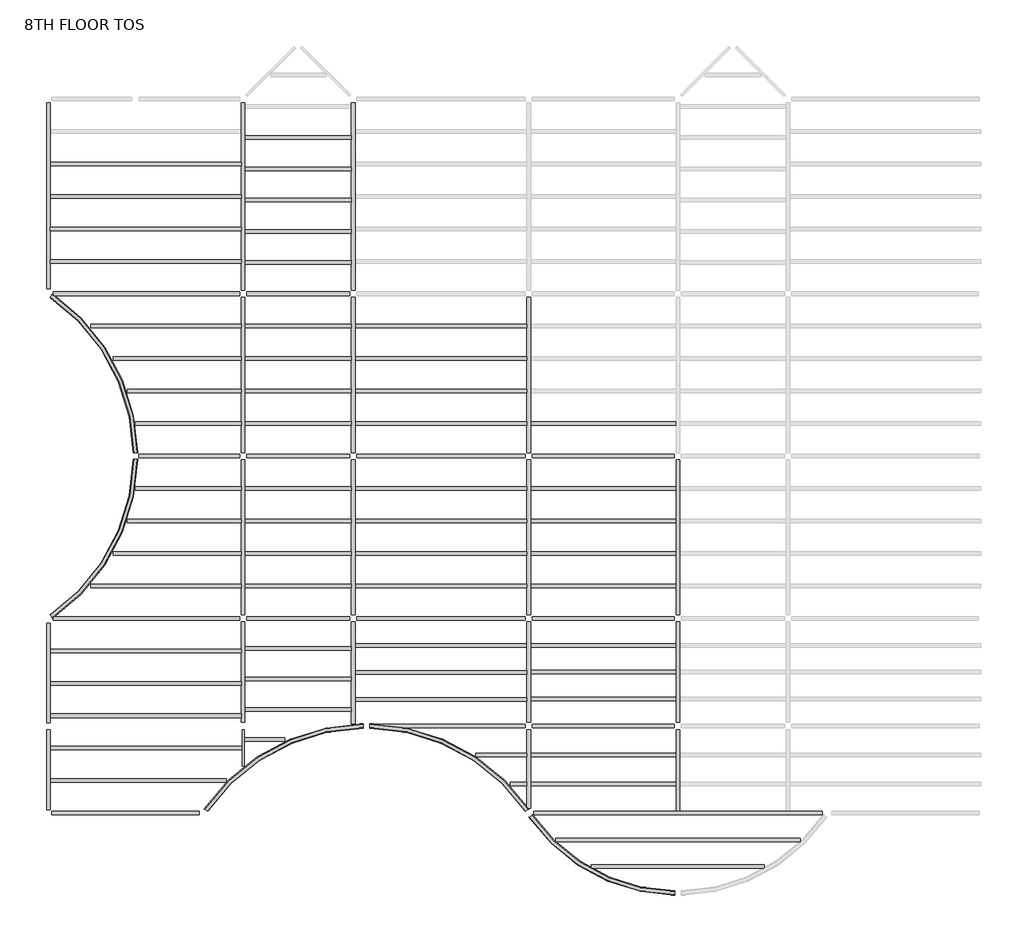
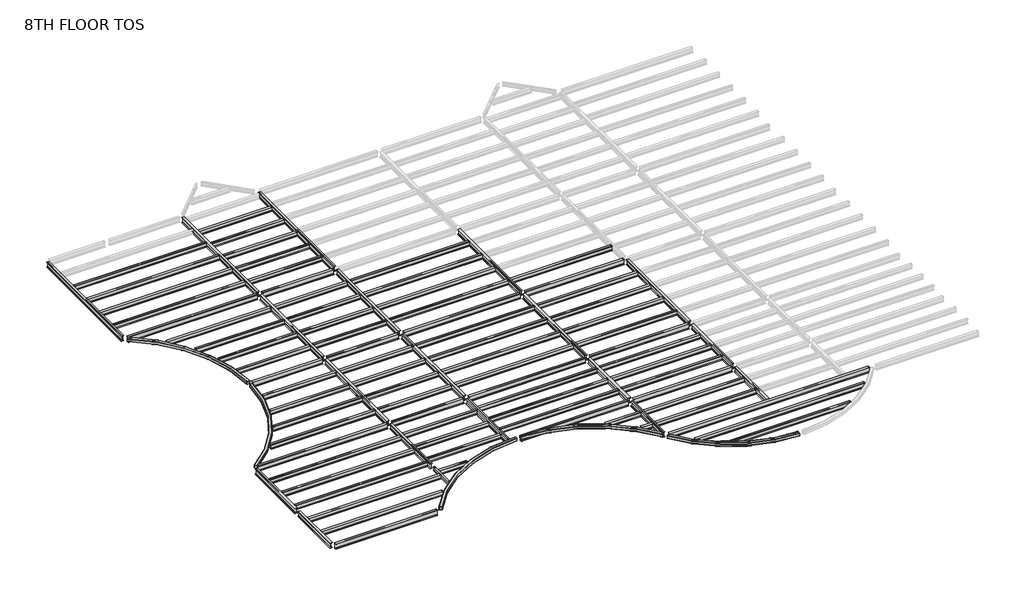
# One storey, part 1 of 2: 97 beams.
"""IFC4 building model written with IfcOpenShell, lengths in millimetres."""

from ifc_helpers import new_model, si_unit, origin, place, context, project, spatial, transform, mapped, element, save
from components import m_hss_square_hss203_2x203_2x9_5_914ff4eb, m_hss_square_hss203_2x203_2x9_5_0e3d8e6e, m_hss_square_hss203_2x203_2x9_5_16dc1c03, m_hss_square_hss203_2x203_2x9_5_18346204, m_hss_square_hss203_2x203_2x9_5_d5f1e8c4, ub_universal_beams_ub254x102x28_4e7f3726, ub_universal_beams_ub305x165x40_c4d0385b, ub_universal_beams_ub305x165x40_d3abc31d, ub_universal_beams_ub305x165x40_0c73730f, ub_universal_beams_ub305x165x40_2a963f0c, ub_universal_beams_ub305x165x40_0a5f2f96, ub_universal_beams_ub305x165x40_d1f7c369, ub_universal_beams_ub305x165x40_83d7b7d5, ub_universal_beams_ub305x165x40_729a4ea5, ub_universal_beams_ub305x165x40_71dfa851, ub_universal_beams_ub305x165x40_619b5398, ub_universal_beams_ub305x165x40_c3492db1, ub_universal_beams_ub305x165x40_8f1c350d, ub_universal_beams_ub305x165x40_3afb5f90, ub_universal_beams_ub305x165x40_767d1929, ub_universal_beams_ub305x165x40_5941ca45, ub_universal_beams_ub356x171x51_ef72dcdd, ub_universal_beams_ub356x171x51_7f80702c, ub_universal_beams_ub356x171x51_dfc36663, ub_universal_beams_ub356x171x51_405a853e, ub_universal_beams_ub356x171x51_e47b7055, ub_universal_beams_ub356x171x51_e97f8d2e, ub_universal_beams_ub356x171x51_11d6b780, ub_universal_beams_ub356x171x51_76b2d20b, ub_universal_beams_ub356x171x51_145ecd4b, ub_universal_beams_ub356x171x51_c7dff8d2, ub_universal_beams_ub356x171x51_834c6e34, ub_universal_beams_ub356x171x51_a38b99de, ub_universal_beams_ub356x171x51_d8f4cdde, ub_universal_beams_ub356x171x51_8094f821, ub_universal_beams_ub356x171x51_c03c70fb, ub_universal_beams_ub356x171x51_e661f2e4, ub_universal_beams_ub356x171x51_3ee91673, ub_universal_beams_ub356x171x51_a871b283, ub_universal_beams_ub356x171x51_741bae58

model = new_model("IFC4")

# Units and contexts
model_context = context("Model", 3, world=origin())
ifc_project = project(units=[si_unit("LENGTHUNIT", "METRE", prefix="MILLI")], contexts=[model_context])

# Site, building, storey
site = spatial("IfcSite", under=ifc_project)
building = spatial("IfcBuilding", under=site)
storey = spatial("IfcBuildingStorey", under=building, Name="8TH FLOOR TOS", Elevation=36423.6)

# Beams
placement = place(None, origin())
m_hss_square_hss203_2x203_2x9_5_shape = m_hss_square_hss203_2x203_2x9_5_914ff4eb(model_context)
element("IfcBeam", 1, ObjectType="M_HSS Square : HSS203.2X203.2X9.5", at=placement, inside=storey, context=model_context, shape_type="MappedRepresentation", body=[
    mapped(m_hss_square_hss203_2x203_2x9_5_shape, transform((22710.575, 155.575, 36322.1), x_axis=(-0.552849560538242, 0.8332810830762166, 0.0), y_axis=(-0.8332810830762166, -0.552849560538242, 0.0), z_axis=(0.0, 0.0, 1.0))),
])
m_hss_square_hss203_2x203_2x9_5_2_shape = m_hss_square_hss203_2x203_2x9_5_0e3d8e6e(model_context)
element("IfcBeam", 2, ObjectType="M_HSS Square : HSS203.2X203.2X9.5", at=placement, inside=storey, context=model_context, shape_type="MappedRepresentation", body=[
    mapped(m_hss_square_hss203_2x203_2x9_5_2_shape, transform((155.575, 9299.575, 36322.1), x_axis=(0.8332810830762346, 0.5528495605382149, 0.0), y_axis=(-0.5528495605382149, 0.8332810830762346, 0.0), z_axis=(0.0, 0.0, 1.0))),
])
m_hss_square_hss203_2x203_2x9_5_3_shape = m_hss_square_hss203_2x203_2x9_5_16dc1c03(model_context)
element("IfcBeam", 3, ObjectType="M_HSS Square : HSS203.2X203.2X9.5", at=placement, inside=storey, context=model_context, shape_type="MappedRepresentation", body=[
    mapped(m_hss_square_hss203_2x203_2x9_5_3_shape, transform((155.575, 24539.575, 36322.1), x_axis=(0.8332810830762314, -0.5528495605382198, 0.0), y_axis=(0.5528495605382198, 0.8332810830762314, 0.0), z_axis=(0.0, 0.0, 1.0))),
])
m_hss_square_hss203_2x203_2x9_5_4_shape = m_hss_square_hss203_2x203_2x9_5_18346204(model_context)
element("IfcBeam", 4, ObjectType="M_HSS Square : HSS203.2X203.2X9.5", at=placement, inside=storey, context=model_context, shape_type="MappedRepresentation", body=[
    mapped(m_hss_square_hss203_2x203_2x9_5_4_shape, transform((29734.7266693, -3601.398624, 36322.1), x_axis=(-0.9999968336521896, -0.0025164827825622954, 0.0), y_axis=(0.0025164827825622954, -0.9999968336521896, 0.0), z_axis=(0.0, 0.0, 1.0))),
])
m_hss_square_hss203_2x203_2x9_5_5_shape = m_hss_square_hss203_2x203_2x9_5_d5f1e8c4(model_context)
element("IfcBeam", 5, ObjectType="M_HSS Square : HSS203.2X203.2X9.5", at=placement, inside=storey, context=model_context, shape_type="MappedRepresentation", body=[
    mapped(m_hss_square_hss203_2x203_2x9_5_5_shape, transform((15096.4572854, 4244.5731081, 36322.1), x_axis=(-0.9999997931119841, 0.0006432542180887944, 0.0), y_axis=(-0.0006432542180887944, -0.9999997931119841, 0.0), z_axis=(0.0, 0.0, 1.0))),
])
ub_universal_beams_ub254x102x28_shape = ub_universal_beams_ub254x102x28_4e7f3726(model_context)
element("IfcBeam", 6, ObjectType="UB-Universal Beams : UB254x102x28", at=placement, inside=storey, context=model_context, shape_type="MappedRepresentation", body=[
    mapped(ub_universal_beams_ub254x102x28_shape, transform((9299.575, 3210.915913, 36293.4), x_axis=(0.0, -1.0, 0.0), y_axis=(1.0, 0.0, 0.0), z_axis=(0.0, 0.0, 1.0))),
])
ub_universal_beams_ub305x165x40_shape = ub_universal_beams_ub305x165x40_c4d0385b(model_context)
element("IfcBeam", 7, ObjectType="UB-Universal Beams : UB305x165x40", at=placement, inside=storey, context=model_context, shape_type="MappedRepresentation", body=[
    mapped(ub_universal_beams_ub305x165x40_shape, transform((4727.575, 30635.575, 36271.9), x_axis=(1.0, 0.0, 0.0), y_axis=(0.0, 1.0, 0.0), z_axis=(0.0, 0.0, 1.0))),
])
element("IfcBeam", 8, ObjectType="UB-Universal Beams : UB305x165x40", at=placement, inside=storey, context=model_context, shape_type="MappedRepresentation", body=[
    mapped(ub_universal_beams_ub305x165x40_shape, transform((4727.575, 29111.575, 36271.9), x_axis=(1.0, 0.0, 0.0), y_axis=(0.0, 1.0, 0.0), z_axis=(0.0, 0.0, 1.0))),
])
element("IfcBeam", 9, ObjectType="UB-Universal Beams : UB305x165x40", at=placement, inside=storey, context=model_context, shape_type="MappedRepresentation", body=[
    mapped(ub_universal_beams_ub305x165x40_shape, transform((4727.575, 27587.575, 36271.9), x_axis=(1.0, 0.0, 0.0), y_axis=(0.0, 1.0, 0.0), z_axis=(0.0, 0.0, 1.0))),
])
element("IfcBeam", 10, ObjectType="UB-Universal Beams : UB305x165x40", at=placement, inside=storey, context=model_context, shape_type="MappedRepresentation", body=[
    mapped(ub_universal_beams_ub305x165x40_shape, transform((4727.575, 26063.575, 36271.9), x_axis=(1.0, 0.0, 0.0), y_axis=(0.0, 1.0, 0.0), z_axis=(0.0, 0.0, 1.0))),
])
element("IfcBeam", 11, ObjectType="UB-Universal Beams : UB305x165x40", at=placement, inside=storey, context=model_context, shape_type="MappedRepresentation", body=[
    mapped(ub_universal_beams_ub305x165x40_shape, transform((4727.575, 4727.575, 36271.9), x_axis=(-1.0, 0.0, 0.0), y_axis=(0.0, -1.0, 0.0), z_axis=(0.0, 0.0, 1.0))),
])
element("IfcBeam", 12, ObjectType="UB-Universal Beams : UB305x165x40", at=placement, inside=storey, context=model_context, shape_type="MappedRepresentation", body=[
    mapped(ub_universal_beams_ub305x165x40_shape, transform((4727.575, 6251.575, 36271.9), x_axis=(-1.0, 0.0, 0.0), y_axis=(0.0, -1.0, 0.0), z_axis=(0.0, 0.0, 1.0))),
])
element("IfcBeam", 13, ObjectType="UB-Universal Beams : UB305x165x40", at=placement, inside=storey, context=model_context, shape_type="MappedRepresentation", body=[
    mapped(ub_universal_beams_ub305x165x40_shape, transform((4727.575, 7775.575, 36271.9), x_axis=(-1.0, 0.0, 0.0), y_axis=(0.0, -1.0, 0.0), z_axis=(0.0, 0.0, 1.0))),
])
ub_universal_beams_ub305x165x40_2_shape = ub_universal_beams_ub305x165x40_d3abc31d(model_context)
element("IfcBeam", 14, ObjectType="UB-Universal Beams : UB305x165x40", at=placement, inside=storey, context=model_context, shape_type="MappedRepresentation", body=[
    mapped(ub_universal_beams_ub305x165x40_2_shape, transform((11885.575, 31870.825, 36271.9), x_axis=(1.0, 0.0, 0.0), y_axis=(0.0, 1.0, 0.0), z_axis=(0.0, 0.0, 1.0))),
])
element("IfcBeam", 15, ObjectType="UB-Universal Beams : UB305x165x40", at=placement, inside=storey, context=model_context, shape_type="MappedRepresentation", body=[
    mapped(ub_universal_beams_ub305x165x40_2_shape, transform((11885.575, 30404.575, 36271.9), x_axis=(1.0, 0.0, 0.0), y_axis=(0.0, 1.0, 0.0), z_axis=(0.0, 0.0, 1.0))),
])
element("IfcBeam", 16, ObjectType="UB-Universal Beams : UB305x165x40", at=placement, inside=storey, context=model_context, shape_type="MappedRepresentation", body=[
    mapped(ub_universal_beams_ub305x165x40_2_shape, transform((11885.575, 28938.325, 36271.9), x_axis=(1.0, 0.0, 0.0), y_axis=(0.0, 1.0, 0.0), z_axis=(0.0, 0.0, 1.0))),
])
element("IfcBeam", 17, ObjectType="UB-Universal Beams : UB305x165x40", at=placement, inside=storey, context=model_context, shape_type="MappedRepresentation", body=[
    mapped(ub_universal_beams_ub305x165x40_2_shape, transform((11885.575, 27472.075, 36271.9), x_axis=(1.0, 0.0, 0.0), y_axis=(0.0, 1.0, 0.0), z_axis=(0.0, 0.0, 1.0))),
])
element("IfcBeam", 18, ObjectType="UB-Universal Beams : UB305x165x40", at=placement, inside=storey, context=model_context, shape_type="MappedRepresentation", body=[
    mapped(ub_universal_beams_ub305x165x40_2_shape, transform((11885.575, 26005.825, 36271.9), x_axis=(1.0, 0.0, 0.0), y_axis=(0.0, 1.0, 0.0), z_axis=(0.0, 0.0, 1.0))),
])
element("IfcBeam", 19, ObjectType="UB-Universal Beams : UB305x165x40", at=placement, inside=storey, context=model_context, shape_type="MappedRepresentation", body=[
    mapped(ub_universal_beams_ub305x165x40_2_shape, transform((11885.575, 23015.575, 36271.9), x_axis=(1.0, 0.0, 0.0), y_axis=(0.0, 1.0, 0.0), z_axis=(0.0, 0.0, 1.0))),
])
element("IfcBeam", 20, ObjectType="UB-Universal Beams : UB305x165x40", at=placement, inside=storey, context=model_context, shape_type="MappedRepresentation", body=[
    mapped(ub_universal_beams_ub305x165x40_2_shape, transform((11885.575, 21491.575, 36271.9), x_axis=(1.0, 0.0, 0.0), y_axis=(0.0, 1.0, 0.0), z_axis=(0.0, 0.0, 1.0))),
])
element("IfcBeam", 21, ObjectType="UB-Universal Beams : UB305x165x40", at=placement, inside=storey, context=model_context, shape_type="MappedRepresentation", body=[
    mapped(ub_universal_beams_ub305x165x40_2_shape, transform((11885.575, 19967.575, 36271.9), x_axis=(1.0, 0.0, 0.0), y_axis=(0.0, 1.0, 0.0), z_axis=(0.0, 0.0, 1.0))),
])
element("IfcBeam", 22, ObjectType="UB-Universal Beams : UB305x165x40", at=placement, inside=storey, context=model_context, shape_type="MappedRepresentation", body=[
    mapped(ub_universal_beams_ub305x165x40_2_shape, transform((11885.575, 18443.575, 36271.9), x_axis=(1.0, 0.0, 0.0), y_axis=(0.0, 1.0, 0.0), z_axis=(0.0, 0.0, 1.0))),
])
element("IfcBeam", 23, ObjectType="UB-Universal Beams : UB305x165x40", at=placement, inside=storey, context=model_context, shape_type="MappedRepresentation", body=[
    mapped(ub_universal_beams_ub305x165x40_2_shape, transform((11885.575, 15395.575, 36271.9), x_axis=(1.0, 0.0, 0.0), y_axis=(0.0, 1.0, 0.0), z_axis=(0.0, 0.0, 1.0))),
])
element("IfcBeam", 24, ObjectType="UB-Universal Beams : UB305x165x40", at=placement, inside=storey, context=model_context, shape_type="MappedRepresentation", body=[
    mapped(ub_universal_beams_ub305x165x40_2_shape, transform((11885.575, 13871.575, 36271.9), x_axis=(1.0, 0.0, 0.0), y_axis=(0.0, 1.0, 0.0), z_axis=(0.0, 0.0, 1.0))),
])
element("IfcBeam", 25, ObjectType="UB-Universal Beams : UB305x165x40", at=placement, inside=storey, context=model_context, shape_type="MappedRepresentation", body=[
    mapped(ub_universal_beams_ub305x165x40_2_shape, transform((11885.575, 12347.575, 36271.9), x_axis=(1.0, 0.0, 0.0), y_axis=(0.0, 1.0, 0.0), z_axis=(0.0, 0.0, 1.0))),
])
element("IfcBeam", 26, ObjectType="UB-Universal Beams : UB305x165x40", at=placement, inside=storey, context=model_context, shape_type="MappedRepresentation", body=[
    mapped(ub_universal_beams_ub305x165x40_2_shape, transform((11885.575, 10823.575, 36271.9), x_axis=(1.0, 0.0, 0.0), y_axis=(0.0, 1.0, 0.0), z_axis=(0.0, 0.0, 1.0))),
])
element("IfcBeam", 27, ObjectType="UB-Universal Beams : UB305x165x40", at=placement, inside=storey, context=model_context, shape_type="MappedRepresentation", body=[
    mapped(ub_universal_beams_ub305x165x40_2_shape, transform((11885.575, 5026.1840956, 36271.9), x_axis=(-1.0, 0.0, 0.0), y_axis=(0.0, -1.0, 0.0), z_axis=(0.0, 0.0, 1.0))),
])
element("IfcBeam", 28, ObjectType="UB-Universal Beams : UB305x165x40", at=placement, inside=storey, context=model_context, shape_type="MappedRepresentation", body=[
    mapped(ub_universal_beams_ub305x165x40_2_shape, transform((11885.575, 6450.6477304, 36271.9), x_axis=(-1.0, 0.0, 0.0), y_axis=(0.0, -1.0, 0.0), z_axis=(0.0, 0.0, 1.0))),
])
element("IfcBeam", 29, ObjectType="UB-Universal Beams : UB305x165x40", at=placement, inside=storey, context=model_context, shape_type="MappedRepresentation", body=[
    mapped(ub_universal_beams_ub305x165x40_2_shape, transform((11885.575, 7875.1113652, 36271.9), x_axis=(-1.0, 0.0, 0.0), y_axis=(0.0, -1.0, 0.0), z_axis=(0.0, 0.0, 1.0))),
])
ub_universal_beams_ub305x165x40_3_shape = ub_universal_beams_ub305x165x40_0c73730f(model_context)
element("IfcBeam", 30, ObjectType="UB-Universal Beams : UB305x165x40", at=placement, inside=storey, context=model_context, shape_type="MappedRepresentation", body=[
    mapped(ub_universal_beams_ub305x165x40_3_shape, transform((18591.075, 5492.5943214, 36271.9), x_axis=(-1.0, 0.0, 0.0), y_axis=(0.0, -1.0, 0.0), z_axis=(0.0, 0.0, 1.0))),
])
element("IfcBeam", 31, ObjectType="UB-Universal Beams : UB305x165x40", at=placement, inside=storey, context=model_context, shape_type="MappedRepresentation", body=[
    mapped(ub_universal_beams_ub305x165x40_3_shape, transform((18591.075, 6761.5878809, 36271.9), x_axis=(-1.0, 0.0, 0.0), y_axis=(0.0, -1.0, 0.0), z_axis=(0.0, 0.0, 1.0))),
])
element("IfcBeam", 32, ObjectType="UB-Universal Beams : UB305x165x40", at=placement, inside=storey, context=model_context, shape_type="MappedRepresentation", body=[
    mapped(ub_universal_beams_ub305x165x40_3_shape, transform((18591.075, 8030.5814405, 36271.9), x_axis=(-1.0, 0.0, 0.0), y_axis=(0.0, -1.0, 0.0), z_axis=(0.0, 0.0, 1.0))),
])
element("IfcBeam", 33, ObjectType="UB-Universal Beams : UB305x165x40", at=placement, inside=storey, context=model_context, shape_type="MappedRepresentation", body=[
    mapped(ub_universal_beams_ub305x165x40_3_shape, transform((18591.075, 15395.575, 36271.9), x_axis=(1.0, 0.0, 0.0), y_axis=(0.0, 1.0, 0.0), z_axis=(0.0, 0.0, 1.0))),
])
element("IfcBeam", 34, ObjectType="UB-Universal Beams : UB305x165x40", at=placement, inside=storey, context=model_context, shape_type="MappedRepresentation", body=[
    mapped(ub_universal_beams_ub305x165x40_3_shape, transform((18591.075, 13871.575, 36271.9), x_axis=(1.0, 0.0, 0.0), y_axis=(0.0, 1.0, 0.0), z_axis=(0.0, 0.0, 1.0))),
])
element("IfcBeam", 35, ObjectType="UB-Universal Beams : UB305x165x40", at=placement, inside=storey, context=model_context, shape_type="MappedRepresentation", body=[
    mapped(ub_universal_beams_ub305x165x40_3_shape, transform((18591.075, 12347.575, 36271.9), x_axis=(1.0, 0.0, 0.0), y_axis=(0.0, 1.0, 0.0), z_axis=(0.0, 0.0, 1.0))),
])
element("IfcBeam", 36, ObjectType="UB-Universal Beams : UB305x165x40", at=placement, inside=storey, context=model_context, shape_type="MappedRepresentation", body=[
    mapped(ub_universal_beams_ub305x165x40_3_shape, transform((18591.075, 10823.575, 36271.9), x_axis=(1.0, 0.0, 0.0), y_axis=(0.0, 1.0, 0.0), z_axis=(0.0, 0.0, 1.0))),
])
element("IfcBeam", 37, ObjectType="UB-Universal Beams : UB305x165x40", at=placement, inside=storey, context=model_context, shape_type="MappedRepresentation", body=[
    mapped(ub_universal_beams_ub305x165x40_3_shape, transform((18591.075, 23015.575, 36271.9), x_axis=(1.0, 0.0, 0.0), y_axis=(0.0, 1.0, 0.0), z_axis=(0.0, 0.0, 1.0))),
])
element("IfcBeam", 38, ObjectType="UB-Universal Beams : UB305x165x40", at=placement, inside=storey, context=model_context, shape_type="MappedRepresentation", body=[
    mapped(ub_universal_beams_ub305x165x40_3_shape, transform((18591.075, 21491.575, 36271.9), x_axis=(1.0, 0.0, 0.0), y_axis=(0.0, 1.0, 0.0), z_axis=(0.0, 0.0, 1.0))),
])
element("IfcBeam", 39, ObjectType="UB-Universal Beams : UB305x165x40", at=placement, inside=storey, context=model_context, shape_type="MappedRepresentation", body=[
    mapped(ub_universal_beams_ub305x165x40_3_shape, transform((18591.075, 19967.575, 36271.9), x_axis=(1.0, 0.0, 0.0), y_axis=(0.0, 1.0, 0.0), z_axis=(0.0, 0.0, 1.0))),
])
element("IfcBeam", 40, ObjectType="UB-Universal Beams : UB305x165x40", at=placement, inside=storey, context=model_context, shape_type="MappedRepresentation", body=[
    mapped(ub_universal_beams_ub305x165x40_3_shape, transform((18591.075, 18443.575, 36271.9), x_axis=(1.0, 0.0, 0.0), y_axis=(0.0, 1.0, 0.0), z_axis=(0.0, 0.0, 1.0))),
])
ub_universal_beams_ub305x165x40_4_shape = ub_universal_beams_ub305x165x40_2a963f0c(model_context)
element("IfcBeam", 41, ObjectType="UB-Universal Beams : UB305x165x40", at=placement, inside=storey, context=model_context, shape_type="MappedRepresentation", body=[
    mapped(ub_universal_beams_ub305x165x40_4_shape, transform((26211.075, 18443.575, 36271.9), x_axis=(1.0, 0.0, 0.0), y_axis=(0.0, 1.0, 0.0), z_axis=(0.0, 0.0, 1.0))),
])
element("IfcBeam", 42, ObjectType="UB-Universal Beams : UB305x165x40", at=placement, inside=storey, context=model_context, shape_type="MappedRepresentation", body=[
    mapped(ub_universal_beams_ub305x165x40_4_shape, transform((26211.075, 15395.575, 36271.9), x_axis=(1.0, 0.0, 0.0), y_axis=(0.0, 1.0, 0.0), z_axis=(0.0, 0.0, 1.0))),
])
element("IfcBeam", 43, ObjectType="UB-Universal Beams : UB305x165x40", at=placement, inside=storey, context=model_context, shape_type="MappedRepresentation", body=[
    mapped(ub_universal_beams_ub305x165x40_4_shape, transform((26211.075, 13871.575, 36271.9), x_axis=(1.0, 0.0, 0.0), y_axis=(0.0, 1.0, 0.0), z_axis=(0.0, 0.0, 1.0))),
])
element("IfcBeam", 44, ObjectType="UB-Universal Beams : UB305x165x40", at=placement, inside=storey, context=model_context, shape_type="MappedRepresentation", body=[
    mapped(ub_universal_beams_ub305x165x40_4_shape, transform((26211.075, 12347.575, 36271.9), x_axis=(1.0, 0.0, 0.0), y_axis=(0.0, 1.0, 0.0), z_axis=(0.0, 0.0, 1.0))),
])
element("IfcBeam", 45, ObjectType="UB-Universal Beams : UB305x165x40", at=placement, inside=storey, context=model_context, shape_type="MappedRepresentation", body=[
    mapped(ub_universal_beams_ub305x165x40_4_shape, transform((26211.075, 10823.575, 36271.9), x_axis=(1.0, 0.0, 0.0), y_axis=(0.0, 1.0, 0.0), z_axis=(0.0, 0.0, 1.0))),
])
element("IfcBeam", 46, ObjectType="UB-Universal Beams : UB305x165x40", at=placement, inside=storey, context=model_context, shape_type="MappedRepresentation", body=[
    mapped(ub_universal_beams_ub305x165x40_4_shape, transform((26211.075, 5508.325, 36271.9), x_axis=(-1.0, 0.0, 0.0), y_axis=(0.0, -1.0, 0.0), z_axis=(0.0, 0.0, 1.0))),
])
element("IfcBeam", 47, ObjectType="UB-Universal Beams : UB305x165x40", at=placement, inside=storey, context=model_context, shape_type="MappedRepresentation", body=[
    mapped(ub_universal_beams_ub305x165x40_4_shape, transform((26211.075, 6772.075, 36271.9), x_axis=(-1.0, 0.0, 0.0), y_axis=(0.0, -1.0, 0.0), z_axis=(0.0, 0.0, 1.0))),
])
element("IfcBeam", 48, ObjectType="UB-Universal Beams : UB305x165x40", at=placement, inside=storey, context=model_context, shape_type="MappedRepresentation", body=[
    mapped(ub_universal_beams_ub305x165x40_4_shape, transform((26211.075, 8035.825, 36271.9), x_axis=(-1.0, 0.0, 0.0), y_axis=(0.0, -1.0, 0.0), z_axis=(0.0, 0.0, 1.0))),
])
element("IfcBeam", 49, ObjectType="UB-Universal Beams : UB305x165x40", at=placement, inside=storey, context=model_context, shape_type="MappedRepresentation", body=[
    mapped(ub_universal_beams_ub305x165x40_4_shape, transform((26211.075, 1518.575, 36271.9), x_axis=(-1.0, 0.0, 0.0), y_axis=(0.0, -1.0, 0.0), z_axis=(0.0, 0.0, 1.0))),
])
element("IfcBeam", 50, ObjectType="UB-Universal Beams : UB305x165x40", at=placement, inside=storey, context=model_context, shape_type="MappedRepresentation", body=[
    mapped(ub_universal_beams_ub305x165x40_4_shape, transform((26211.075, 2881.575, 36271.9), x_axis=(-1.0, 0.0, 0.0), y_axis=(0.0, -1.0, 0.0), z_axis=(0.0, 0.0, 1.0))),
])
ub_universal_beams_ub305x165x40_5_shape = ub_universal_beams_ub305x165x40_0a5f2f96(model_context)
element("IfcBeam", 51, ObjectType="UB-Universal Beams : UB305x165x40", at=placement, inside=storey, context=model_context, shape_type="MappedRepresentation", body=[
    mapped(ub_universal_beams_ub305x165x40_5_shape, transform((29713.575, -2349.0918253, 36271.9), x_axis=(-1.0, 0.0, 0.0), y_axis=(0.0, -1.0, 0.0), z_axis=(0.0, 0.0, 1.0))),
])
ub_universal_beams_ub305x165x40_6_shape = ub_universal_beams_ub305x165x40_d1f7c369(model_context)
element("IfcBeam", 52, ObjectType="UB-Universal Beams : UB305x165x40", at=placement, inside=storey, context=model_context, shape_type="MappedRepresentation", body=[
    mapped(ub_universal_beams_ub305x165x40_6_shape, transform((29713.575, -1096.7584126, 36271.9), x_axis=(-1.0, 0.0, 0.0), y_axis=(0.0, -1.0, 0.0), z_axis=(0.0, 0.0, 1.0))),
])
ub_universal_beams_ub305x165x40_7_shape = ub_universal_beams_ub305x165x40_83d7b7d5(model_context)
element("IfcBeam", 53, ObjectType="UB-Universal Beams : UB305x165x40", at=placement, inside=storey, context=model_context, shape_type="MappedRepresentation", body=[
    mapped(ub_universal_beams_ub305x165x40_7_shape, transform((22157.3041106, 1518.575, 36271.9), x_axis=(-1.0, 0.0, 0.0), y_axis=(0.0, -1.0, 0.0), z_axis=(0.0, 0.0, 1.0))),
])
ub_universal_beams_ub305x165x40_8_shape = ub_universal_beams_ub305x165x40_729a4ea5(model_context)
element("IfcBeam", 54, ObjectType="UB-Universal Beams : UB305x165x40", at=placement, inside=storey, context=model_context, shape_type="MappedRepresentation", body=[
    mapped(ub_universal_beams_ub305x165x40_8_shape, transform((21302.1545844, 2881.575, 36271.9), x_axis=(-1.0, 0.0, 0.0), y_axis=(0.0, -1.0, 0.0), z_axis=(0.0, 0.0, 1.0))),
])
ub_universal_beams_ub305x165x40_9_shape = ub_universal_beams_ub305x165x40_71dfa851(model_context)
element("IfcBeam", 55, ObjectType="UB-Universal Beams : UB305x165x40", at=placement, inside=storey, context=model_context, shape_type="MappedRepresentation", body=[
    mapped(ub_universal_beams_ub305x165x40_9_shape, transform((10511.0323166, 3601.7204608, 36271.9), x_axis=(-1.0, 0.0, 0.0), y_axis=(0.0, -1.0, 0.0), z_axis=(0.0, 0.0, 1.0))),
])
ub_universal_beams_ub305x165x40_10_shape = ub_universal_beams_ub305x165x40_619b5398(model_context)
element("IfcBeam", 56, ObjectType="UB-Universal Beams : UB305x165x40", at=placement, inside=storey, context=model_context, shape_type="MappedRepresentation", body=[
    mapped(ub_universal_beams_ub305x165x40_10_shape, transform((4447.6838282, 1679.575, 36271.9), x_axis=(-1.0, 0.0, 0.0), y_axis=(0.0, -1.0, 0.0), z_axis=(0.0, 0.0, 1.0))),
])
ub_universal_beams_ub305x165x40_11_shape = ub_universal_beams_ub305x165x40_c3492db1(model_context)
element("IfcBeam", 57, ObjectType="UB-Universal Beams : UB305x165x40", at=placement, inside=storey, context=model_context, shape_type="MappedRepresentation", body=[
    mapped(ub_universal_beams_ub305x165x40_11_shape, transform((4727.575, 3203.575, 36271.9), x_axis=(-1.0, 0.0, 0.0), y_axis=(0.0, -1.0, 0.0), z_axis=(0.0, 0.0, 1.0))),
])
ub_universal_beams_ub305x165x40_12_shape = ub_universal_beams_ub305x165x40_8f1c350d(model_context)
element("IfcBeam", 58, ObjectType="UB-Universal Beams : UB305x165x40", at=placement, inside=storey, context=model_context, shape_type="MappedRepresentation", body=[
    mapped(ub_universal_beams_ub305x165x40_12_shape, transform((6708.1318611, 15395.575, 36271.9), x_axis=(1.0, 0.0, 0.0), y_axis=(0.0, 1.0, 0.0), z_axis=(0.0, 0.0, 1.0))),
])
element("IfcBeam", 59, ObjectType="UB-Universal Beams : UB305x165x40", at=placement, inside=storey, context=model_context, shape_type="MappedRepresentation", body=[
    mapped(ub_universal_beams_ub305x165x40_12_shape, transform((6708.1318611, 18443.575, 36271.9), x_axis=(1.0, 0.0, 0.0), y_axis=(0.0, 1.0, 0.0), z_axis=(0.0, 0.0, 1.0))),
])
ub_universal_beams_ub305x165x40_13_shape = ub_universal_beams_ub305x165x40_3afb5f90(model_context)
element("IfcBeam", 60, ObjectType="UB-Universal Beams : UB305x165x40", at=placement, inside=storey, context=model_context, shape_type="MappedRepresentation", body=[
    mapped(ub_universal_beams_ub305x165x40_13_shape, transform((6510.6153272, 13871.575, 36271.9), x_axis=(1.0, 0.0, 0.0), y_axis=(0.0, 1.0, 0.0), z_axis=(0.0, 0.0, 1.0))),
])
element("IfcBeam", 61, ObjectType="UB-Universal Beams : UB305x165x40", at=placement, inside=storey, context=model_context, shape_type="MappedRepresentation", body=[
    mapped(ub_universal_beams_ub305x165x40_13_shape, transform((6510.6153272, 19967.575, 36271.9), x_axis=(1.0, 0.0, 0.0), y_axis=(0.0, 1.0, 0.0), z_axis=(0.0, 0.0, 1.0))),
])
ub_universal_beams_ub305x165x40_14_shape = ub_universal_beams_ub305x165x40_767d1929(model_context)
element("IfcBeam", 62, ObjectType="UB-Universal Beams : UB305x165x40", at=placement, inside=storey, context=model_context, shape_type="MappedRepresentation", body=[
    mapped(ub_universal_beams_ub305x165x40_14_shape, transform((6159.5874928, 12347.575, 36271.9), x_axis=(1.0, 0.0, 0.0), y_axis=(0.0, 1.0, 0.0), z_axis=(0.0, 0.0, 1.0))),
])
element("IfcBeam", 63, ObjectType="UB-Universal Beams : UB305x165x40", at=placement, inside=storey, context=model_context, shape_type="MappedRepresentation", body=[
    mapped(ub_universal_beams_ub305x165x40_14_shape, transform((6159.5874928, 21491.575, 36271.9), x_axis=(1.0, 0.0, 0.0), y_axis=(0.0, 1.0, 0.0), z_axis=(0.0, 0.0, 1.0))),
])
ub_universal_beams_ub305x165x40_15_shape = ub_universal_beams_ub305x165x40_5941ca45(model_context)
element("IfcBeam", 64, ObjectType="UB-Universal Beams : UB305x165x40", at=placement, inside=storey, context=model_context, shape_type="MappedRepresentation", body=[
    mapped(ub_universal_beams_ub305x165x40_15_shape, transform((5607.9405309, 10823.575, 36271.9), x_axis=(1.0, 0.0, 0.0), y_axis=(0.0, 1.0, 0.0), z_axis=(0.0, 0.0, 1.0))),
])
element("IfcBeam", 65, ObjectType="UB-Universal Beams : UB305x165x40", at=placement, inside=storey, context=model_context, shape_type="MappedRepresentation", body=[
    mapped(ub_universal_beams_ub305x165x40_15_shape, transform((5607.9405309, 23015.575, 36271.9), x_axis=(1.0, 0.0, 0.0), y_axis=(0.0, 1.0, 0.0), z_axis=(0.0, 0.0, 1.0))),
])
ub_universal_beams_ub356x171x51_shape = ub_universal_beams_ub356x171x51_ef72dcdd(model_context)
element("IfcBeam", 66, ObjectType="UB-Universal Beams : UB356x171x51", at=placement, inside=storey, context=model_context, shape_type="MappedRepresentation", body=[
    mapped(ub_universal_beams_ub356x171x51_shape, transform((9299.575, 6772.075, 36246.1), x_axis=(0.0, -1.0, 0.0), y_axis=(1.0, 0.0, 0.0), z_axis=(0.0, 0.0, 1.0))),
])
element("IfcBeam", 67, ObjectType="UB-Universal Beams : UB356x171x51", at=placement, inside=storey, context=model_context, shape_type="MappedRepresentation", body=[
    mapped(ub_universal_beams_ub356x171x51_shape, transform((29711.575, 6772.075, 36246.1), x_axis=(0.0, 1.0, 0.0), y_axis=(-1.0, 0.0, 0.0), z_axis=(0.0, 0.0, 1.0))),
])
element("IfcBeam", 68, ObjectType="UB-Universal Beams : UB356x171x51", at=placement, inside=storey, context=model_context, shape_type="MappedRepresentation", body=[
    mapped(ub_universal_beams_ub356x171x51_shape, transform((22710.575, 6772.075, 36246.1), x_axis=(0.0, -1.0, 0.0), y_axis=(1.0, 0.0, 0.0), z_axis=(0.0, 0.0, 1.0))),
])
ub_universal_beams_ub356x171x51_2_shape = ub_universal_beams_ub356x171x51_7f80702c(model_context)
element("IfcBeam", 69, ObjectType="UB-Universal Beams : UB356x171x51", at=placement, inside=storey, context=model_context, shape_type="MappedRepresentation", body=[
    mapped(ub_universal_beams_ub356x171x51_2_shape, transform((3813.075, 155.575, 36246.1), x_axis=(-1.0, 0.0, 0.0), y_axis=(0.0, -1.0, 0.0), z_axis=(0.0, 0.0, 1.0))),
])
ub_universal_beams_ub356x171x51_3_shape = ub_universal_beams_ub356x171x51_dfc36663(model_context)
element("IfcBeam", 70, ObjectType="UB-Universal Beams : UB356x171x51", at=placement, inside=storey, context=model_context, shape_type="MappedRepresentation", body=[
    mapped(ub_universal_beams_ub356x171x51_3_shape, transform((155.575, 2200.075, 36246.1), x_axis=(0.0, 1.0, 0.0), y_axis=(-1.0, 0.0, 0.0), z_axis=(0.0, 0.0, 1.0))),
])
ub_universal_beams_ub356x171x51_4_shape = ub_universal_beams_ub356x171x51_405a853e(model_context)
element("IfcBeam", 71, ObjectType="UB-Universal Beams : UB356x171x51", at=placement, inside=storey, context=model_context, shape_type="MappedRepresentation", body=[
    mapped(ub_universal_beams_ub356x171x51_4_shape, transform((155.575, 6772.075, 36246.1), x_axis=(0.0, 1.0, 0.0), y_axis=(-1.0, 0.0, 0.0), z_axis=(0.0, 0.0, 1.0))),
])
ub_universal_beams_ub356x171x51_5_shape = ub_universal_beams_ub356x171x51_e47b7055(model_context)
element("IfcBeam", 72, ObjectType="UB-Universal Beams : UB356x171x51", at=placement, inside=storey, context=model_context, shape_type="MappedRepresentation", body=[
    mapped(ub_universal_beams_ub356x171x51_5_shape, transform((155.575, 29111.575, 36246.1), x_axis=(0.0, 1.0, 0.0), y_axis=(-1.0, 0.0, 0.0), z_axis=(0.0, 0.0, 1.0))),
])
ub_universal_beams_ub356x171x51_6_shape = ub_universal_beams_ub356x171x51_e97f8d2e(model_context)
element("IfcBeam", 73, ObjectType="UB-Universal Beams : UB356x171x51", at=placement, inside=storey, context=model_context, shape_type="MappedRepresentation", body=[
    mapped(ub_universal_beams_ub356x171x51_6_shape, transform((4727.575, 24539.575, 36246.1), x_axis=(1.0, 0.0, 0.0), y_axis=(0.0, 1.0, 0.0), z_axis=(0.0, 0.0, 1.0))),
])
ub_universal_beams_ub356x171x51_7_shape = ub_universal_beams_ub356x171x51_11d6b780(model_context)
element("IfcBeam", 74, ObjectType="UB-Universal Beams : UB356x171x51", at=placement, inside=storey, context=model_context, shape_type="MappedRepresentation", body=[
    mapped(ub_universal_beams_ub356x171x51_7_shape, transform((11885.575, 24539.575, 36246.1), x_axis=(1.0, 0.0, 0.0), y_axis=(0.0, 1.0, 0.0), z_axis=(0.0, 0.0, 1.0))),
])
element("IfcBeam", 75, ObjectType="UB-Universal Beams : UB356x171x51", at=placement, inside=storey, context=model_context, shape_type="MappedRepresentation", body=[
    mapped(ub_universal_beams_ub356x171x51_7_shape, transform((11885.575, 9299.575, 36246.1), x_axis=(-1.0, 0.0, 0.0), y_axis=(0.0, -1.0, 0.0), z_axis=(0.0, 0.0, 1.0))),
])
element("IfcBeam", 76, ObjectType="UB-Universal Beams : UB356x171x51", at=placement, inside=storey, context=model_context, shape_type="MappedRepresentation", body=[
    mapped(ub_universal_beams_ub356x171x51_7_shape, transform((11885.575, 16919.575, 36246.1), x_axis=(1.0, 0.0, 0.0), y_axis=(0.0, 1.0, 0.0), z_axis=(0.0, 0.0, 1.0))),
])
ub_universal_beams_ub356x171x51_8_shape = ub_universal_beams_ub356x171x51_76b2d20b(model_context)
element("IfcBeam", 77, ObjectType="UB-Universal Beams : UB356x171x51", at=placement, inside=storey, context=model_context, shape_type="MappedRepresentation", body=[
    mapped(ub_universal_beams_ub356x171x51_8_shape, transform((18591.075, 9299.575, 36246.1), x_axis=(-1.0, 0.0, 0.0), y_axis=(0.0, -1.0, 0.0), z_axis=(0.0, 0.0, 1.0))),
])
element("IfcBeam", 78, ObjectType="UB-Universal Beams : UB356x171x51", at=placement, inside=storey, context=model_context, shape_type="MappedRepresentation", body=[
    mapped(ub_universal_beams_ub356x171x51_8_shape, transform((18591.075, 16919.575, 36246.1), x_axis=(1.0, 0.0, 0.0), y_axis=(0.0, 1.0, 0.0), z_axis=(0.0, 0.0, 1.0))),
])
ub_universal_beams_ub356x171x51_9_shape = ub_universal_beams_ub356x171x51_145ecd4b(model_context)
element("IfcBeam", 79, ObjectType="UB-Universal Beams : UB356x171x51", at=placement, inside=storey, context=model_context, shape_type="MappedRepresentation", body=[
    mapped(ub_universal_beams_ub356x171x51_9_shape, transform((26211.075, 9299.575, 36246.1), x_axis=(-1.0, 0.0, 0.0), y_axis=(0.0, -1.0, 0.0), z_axis=(0.0, 0.0, 1.0))),
])
element("IfcBeam", 80, ObjectType="UB-Universal Beams : UB356x171x51", at=placement, inside=storey, context=model_context, shape_type="MappedRepresentation", body=[
    mapped(ub_universal_beams_ub356x171x51_9_shape, transform((26211.075, 16919.575, 36246.1), x_axis=(1.0, 0.0, 0.0), y_axis=(0.0, 1.0, 0.0), z_axis=(0.0, 0.0, 1.0))),
])
element("IfcBeam", 81, ObjectType="UB-Universal Beams : UB356x171x51", at=placement, inside=storey, context=model_context, shape_type="MappedRepresentation", body=[
    mapped(ub_universal_beams_ub356x171x51_9_shape, transform((26211.075, 4244.575, 36246.1), x_axis=(-1.0, 0.0, 0.0), y_axis=(0.0, -1.0, 0.0), z_axis=(0.0, 0.0, 1.0))),
])
ub_universal_beams_ub356x171x51_10_shape = ub_universal_beams_ub356x171x51_c7dff8d2(model_context)
element("IfcBeam", 82, ObjectType="UB-Universal Beams : UB356x171x51", at=placement, inside=storey, context=model_context, shape_type="MappedRepresentation", body=[
    mapped(ub_universal_beams_ub356x171x51_10_shape, transform((4727.575, 9299.575, 36246.1), x_axis=(-1.0, 0.0, 0.0), y_axis=(0.0, -1.0, 0.0), z_axis=(0.0, 0.0, 1.0))),
])
ub_universal_beams_ub356x171x51_11_shape = ub_universal_beams_ub356x171x51_834c6e34(model_context)
element("IfcBeam", 83, ObjectType="UB-Universal Beams : UB356x171x51", at=placement, inside=storey, context=model_context, shape_type="MappedRepresentation", body=[
    mapped(ub_universal_beams_ub356x171x51_11_shape, transform((14471.575, 6761.5878809, 36246.1), x_axis=(0.0, -1.0, 0.0), y_axis=(1.0, 0.0, 0.0), z_axis=(0.0, 0.0, 1.0))),
])
ub_universal_beams_ub356x171x51_12_shape = ub_universal_beams_ub356x171x51_a38b99de(model_context)
element("IfcBeam", 84, ObjectType="UB-Universal Beams : UB356x171x51", at=placement, inside=storey, context=model_context, shape_type="MappedRepresentation", body=[
    mapped(ub_universal_beams_ub356x171x51_12_shape, transform((9299.575, 13109.575, 36246.1), x_axis=(0.0, 1.0, 0.0), y_axis=(-1.0, 0.0, 0.0), z_axis=(0.0, 0.0, 1.0))),
])
element("IfcBeam", 85, ObjectType="UB-Universal Beams : UB356x171x51", at=placement, inside=storey, context=model_context, shape_type="MappedRepresentation", body=[
    mapped(ub_universal_beams_ub356x171x51_12_shape, transform((9299.575, 20729.575, 36246.1), x_axis=(0.0, 1.0, 0.0), y_axis=(-1.0, 0.0, 0.0), z_axis=(0.0, 0.0, 1.0))),
])
element("IfcBeam", 86, ObjectType="UB-Universal Beams : UB356x171x51", at=placement, inside=storey, context=model_context, shape_type="MappedRepresentation", body=[
    mapped(ub_universal_beams_ub356x171x51_12_shape, transform((14471.575, 20729.575, 36246.1), x_axis=(0.0, -1.0, 0.0), y_axis=(1.0, 0.0, 0.0), z_axis=(0.0, 0.0, 1.0))),
])
element("IfcBeam", 87, ObjectType="UB-Universal Beams : UB356x171x51", at=placement, inside=storey, context=model_context, shape_type="MappedRepresentation", body=[
    mapped(ub_universal_beams_ub356x171x51_12_shape, transform((14471.575, 13109.575, 36246.1), x_axis=(0.0, -1.0, 0.0), y_axis=(1.0, 0.0, 0.0), z_axis=(0.0, 0.0, 1.0))),
])
element("IfcBeam", 88, ObjectType="UB-Universal Beams : UB356x171x51", at=placement, inside=storey, context=model_context, shape_type="MappedRepresentation", body=[
    mapped(ub_universal_beams_ub356x171x51_12_shape, transform((22710.575, 20729.575, 36246.1), x_axis=(0.0, -1.0, 0.0), y_axis=(1.0, 0.0, 0.0), z_axis=(0.0, 0.0, 1.0))),
])
element("IfcBeam", 89, ObjectType="UB-Universal Beams : UB356x171x51", at=placement, inside=storey, context=model_context, shape_type="MappedRepresentation", body=[
    mapped(ub_universal_beams_ub356x171x51_12_shape, transform((22710.575, 13109.575, 36246.1), x_axis=(0.0, -1.0, 0.0), y_axis=(1.0, 0.0, 0.0), z_axis=(0.0, 0.0, 1.0))),
])
element("IfcBeam", 90, ObjectType="UB-Universal Beams : UB356x171x51", at=placement, inside=storey, context=model_context, shape_type="MappedRepresentation", body=[
    mapped(ub_universal_beams_ub356x171x51_12_shape, transform((29711.575, 13109.575, 36246.1), x_axis=(0.0, 1.0, 0.0), y_axis=(-1.0, 0.0, 0.0), z_axis=(0.0, 0.0, 1.0))),
])
ub_universal_beams_ub356x171x51_13_shape = ub_universal_beams_ub356x171x51_d8f4cdde(model_context)
element("IfcBeam", 91, ObjectType="UB-Universal Beams : UB356x171x51", at=placement, inside=storey, context=model_context, shape_type="MappedRepresentation", body=[
    mapped(ub_universal_beams_ub356x171x51_13_shape, transform((9299.575, 29111.575, 36246.1), x_axis=(0.0, 1.0, 0.0), y_axis=(-1.0, 0.0, 0.0), z_axis=(0.0, 0.0, 1.0))),
])
ub_universal_beams_ub356x171x51_14_shape = ub_universal_beams_ub356x171x51_8094f821(model_context)
element("IfcBeam", 92, ObjectType="UB-Universal Beams : UB356x171x51", at=placement, inside=storey, context=model_context, shape_type="MappedRepresentation", body=[
    mapped(ub_universal_beams_ub356x171x51_14_shape, transform((6772.075, 16919.575, 36246.1), x_axis=(1.0, 0.0, 0.0), y_axis=(0.0, 1.0, 0.0), z_axis=(0.0, 0.0, 1.0))),
])
ub_universal_beams_ub356x171x51_15_shape = ub_universal_beams_ub356x171x51_c03c70fb(model_context)
element("IfcBeam", 93, ObjectType="UB-Universal Beams : UB356x171x51", at=placement, inside=storey, context=model_context, shape_type="MappedRepresentation", body=[
    mapped(ub_universal_beams_ub356x171x51_15_shape, transform((14471.575, 29111.575, 36246.1), x_axis=(0.0, -1.0, 0.0), y_axis=(1.0, 0.0, 0.0), z_axis=(0.0, 0.0, 1.0))),
])
ub_universal_beams_ub356x171x51_16_shape = ub_universal_beams_ub356x171x51_e661f2e4(model_context)
element("IfcBeam", 94, ObjectType="UB-Universal Beams : UB356x171x51", at=placement, inside=storey, context=model_context, shape_type="MappedRepresentation", body=[
    mapped(ub_universal_beams_ub356x171x51_16_shape, transform((29713.575, 155.575, 36246.1), x_axis=(-1.0, 0.0, 0.0), y_axis=(0.0, -1.0, 0.0), z_axis=(0.0, 0.0, 1.0))),
])
ub_universal_beams_ub356x171x51_17_shape = ub_universal_beams_ub356x171x51_3ee91673(model_context)
element("IfcBeam", 95, ObjectType="UB-Universal Beams : UB356x171x51", at=placement, inside=storey, context=model_context, shape_type="MappedRepresentation", body=[
    mapped(ub_universal_beams_ub356x171x51_17_shape, transform((18900.575, 4244.575, 36246.1), x_axis=(-1.0, 0.0, 0.0), y_axis=(0.0, -1.0, 0.0), z_axis=(0.0, 0.0, 1.0))),
])
ub_universal_beams_ub356x171x51_18_shape = ub_universal_beams_ub356x171x51_a871b283(model_context)
element("IfcBeam", 96, ObjectType="UB-Universal Beams : UB356x171x51", at=placement, inside=storey, context=model_context, shape_type="MappedRepresentation", body=[
    mapped(ub_universal_beams_ub356x171x51_18_shape, transform((22710.575, 2200.075, 36246.1), x_axis=(0.0, -1.0, 0.0), y_axis=(1.0, 0.0, 0.0), z_axis=(0.0, 0.0, 1.0))),
])
ub_universal_beams_ub356x171x51_19_shape = ub_universal_beams_ub356x171x51_741bae58(model_context)
element("IfcBeam", 97, ObjectType="UB-Universal Beams : UB356x171x51", at=placement, inside=storey, context=model_context, shape_type="MappedRepresentation", body=[
    mapped(ub_universal_beams_ub356x171x51_19_shape, transform((29711.575, 2200.075, 36246.1), x_axis=(0.0, -1.0, 0.0), y_axis=(1.0, 0.0, 0.0), z_axis=(0.0, 0.0, 1.0))),
])

save(model, "model.ifc")
